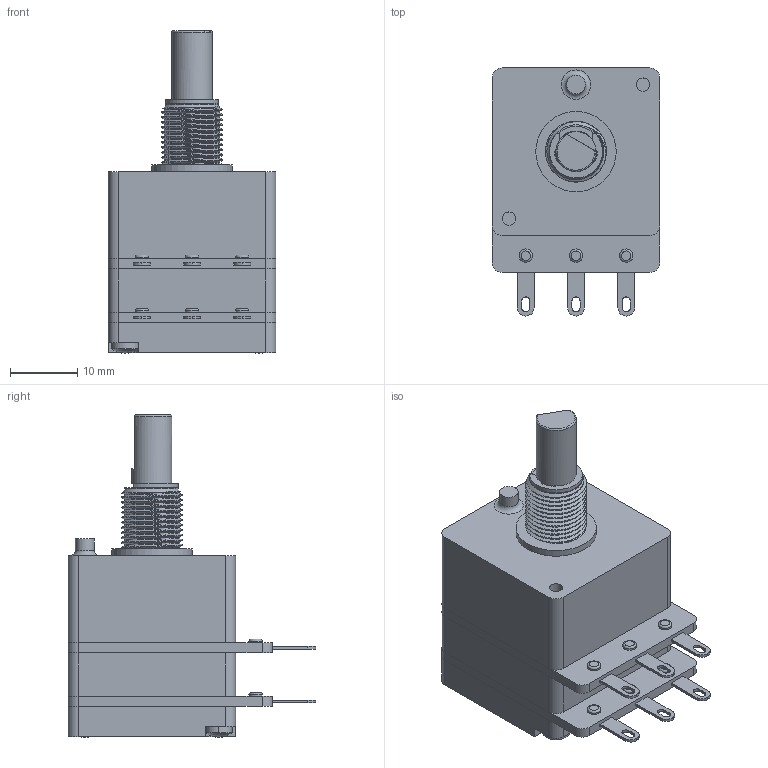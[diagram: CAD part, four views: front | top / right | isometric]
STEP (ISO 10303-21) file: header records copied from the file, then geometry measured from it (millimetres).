
FILE_DESCRIPTION(('FreeCAD Model'),'2;1');
FILE_NAME('Open CASCADE Shape Model','2024-02-26T16:07:55',(''),(''), 'Open CASCADE STEP processor 7.6','FreeCAD','Unknown');
FILE_SCHEMA(('AUTOMOTIVE_DESIGN { 1 0 10303 214 1 1 1 1 }'));
Length unit declared in the file: millimetre
Products named in the file (1): 2cp25xx-f20
Bounding box: 25 x 37 x 48.07 mm (x, y, z)
Volume: 18030.2 mm3; surface area: 6022.7 mm2
Topology: 1 solids, 11 shells, 326 faces, 765 edges, 475 vertices
Faces by surface type: plane 156, cylinder 107, bspline 38, cone 12, torus 9, sphere 2, revolution 2
Full cylindrical faces by diameter (mm): 1.9 x4, 2 x16, 2.2 x6, 2.8 x1, 4.5 x2, 5.4 x1, 6 x1, 6.05 x1, 8 x1, 9.09 x11, 12 x1
Entity records: 29077 total; most frequent: CARTESIAN_POINT 13638, DIRECTION 2582, ORIENTED_EDGE 1524, PCURVE 1524, DEFINITIONAL_REPRESENTATION 1524, LINE 1201, VECTOR 1201, EDGE_CURVE 762
